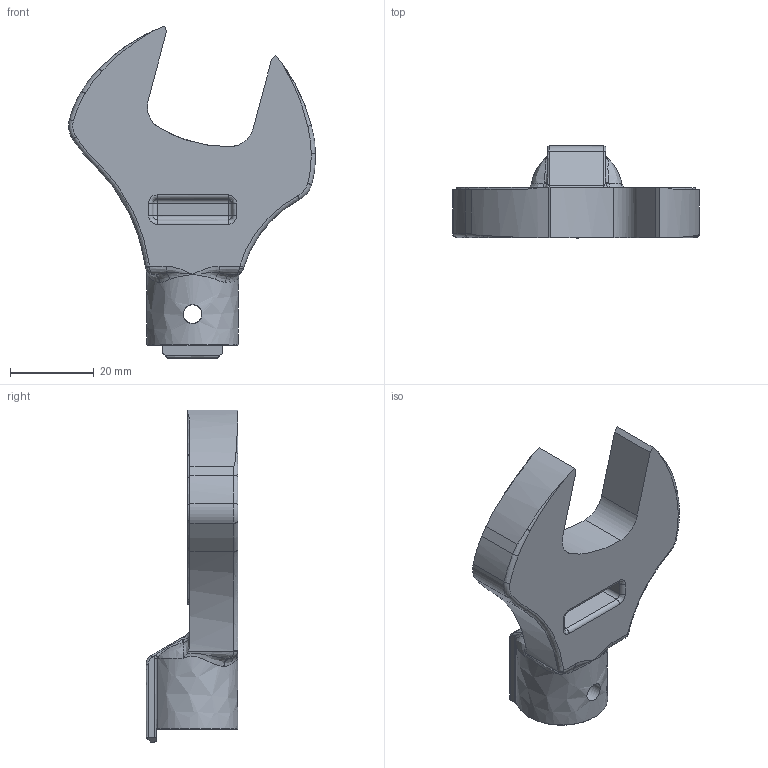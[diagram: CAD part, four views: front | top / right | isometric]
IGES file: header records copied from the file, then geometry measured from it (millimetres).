
Global section: file name: SH15DX26; native system: Autodesk Inventor 2016; preprocessor: unknown; author: Q600; date: 20151029.184109; units: millimetre
Bounding box: 59.04 x 22 x 79.41 mm (x, y, z)
Volume: 24954.3 mm3; surface area: 9077.2 mm2
Topology: 1 solids, 1 shells, 136 faces, 360 edges, 218 vertices
Faces by surface type: bspline 136
